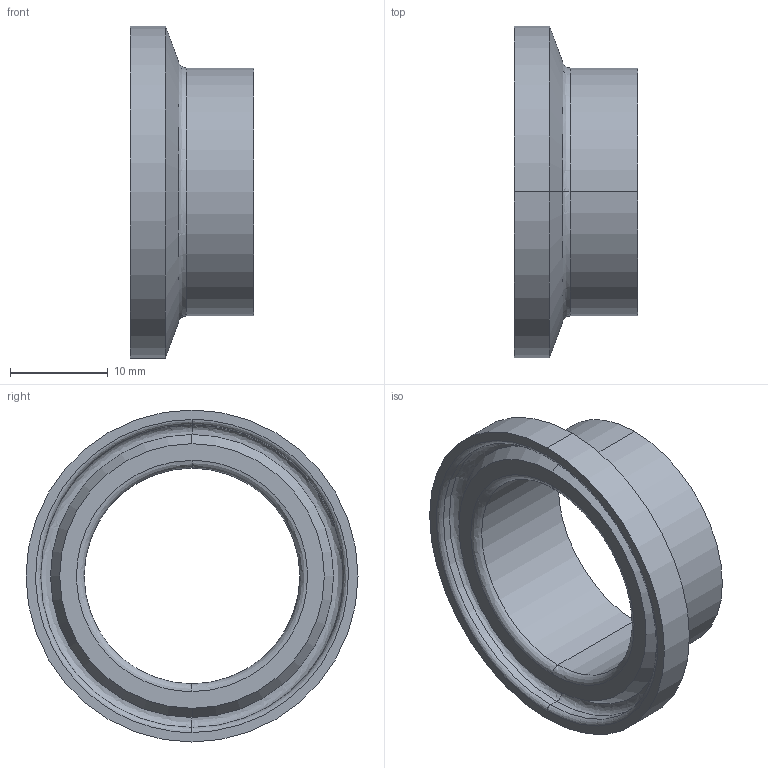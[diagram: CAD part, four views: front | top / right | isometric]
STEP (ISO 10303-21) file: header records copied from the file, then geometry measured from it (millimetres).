
FILE_DESCRIPTION (( 'STEP AP214' ), '1' );
FILE_NAME ('TEG2CS6L1.0_TYPE A.STEP', '2016-05-22T11:57:11', ( 'eran' ), ( '' ), 'SwSTEP 2.0', 'SolidWorks 2016', '' );
FILE_SCHEMA (( 'AUTOMOTIVE_DESIGN' ));
Length unit declared in the file: millimetre
Products named in the file (1): TEG2CS6L1.0_TYPE A
Bounding box: 12.7 x 34.01 x 34.01 mm (x, y, z)
Volume: 2843.8 mm3; surface area: 3072.7 mm2
Topology: 1 solids, 1 shells, 23 faces, 46 edges, 26 vertices
Faces by surface type: bspline 8, cylinder 8, cone 4, plane 3
Entity records: 724 total; most frequent: CARTESIAN_POINT 228, DIRECTION 104, ORIENTED_EDGE 92, AXIS2_PLACEMENT_3D 46, EDGE_CURVE 46, CIRCLE 30, EDGE_LOOP 26, VERTEX_POINT 26
